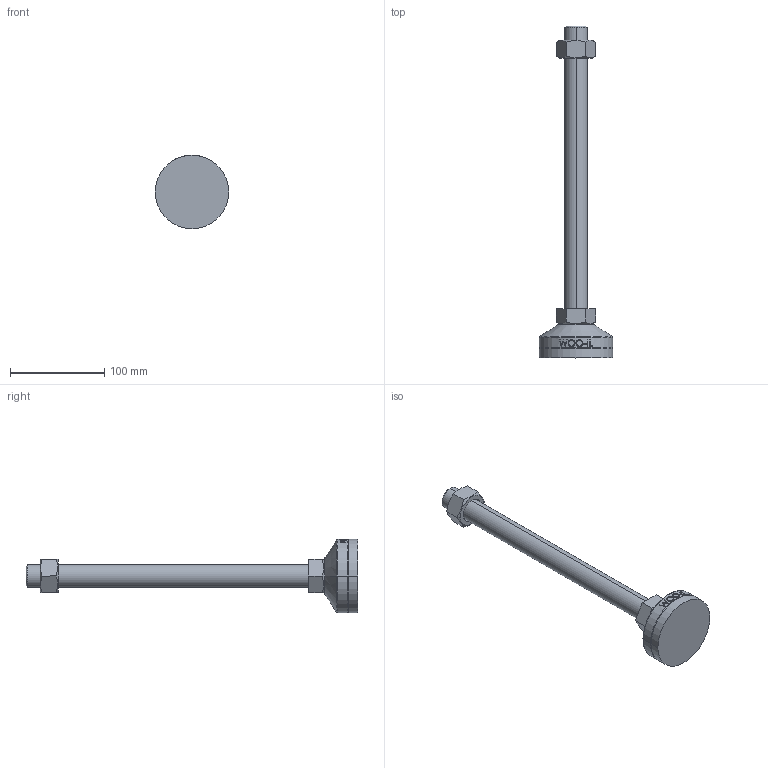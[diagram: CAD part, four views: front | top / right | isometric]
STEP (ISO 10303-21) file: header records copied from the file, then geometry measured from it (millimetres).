
FILE_DESCRIPTION (( 'STEP AP214' ), '1' );
FILE_NAME ('MFR78-M24-300.step', '2021-01-13T05:40:35', ( '' ), ( '' ), 'SwSTEP 2.0', 'SolidWorks 2019', '' );
FILE_SCHEMA (( 'AUTOMOTIVE_DESIGN' ));
Length unit declared in the file: millimetre
Products named in the file (2): MFR78-M24-300
Bounding box: 78 x 352 x 78 mm (x, y, z)
Volume: 309156.2 mm3; surface area: 56885.7 mm2
Topology: 4 solids, 4 shells, 103 faces, 235 edges, 150 vertices
Faces by surface type: plane 49, cylinder 18, bspline 16, cone 14, torus 6
Entity records: 4471 total; most frequent: CARTESIAN_POINT 2198, ORIENTED_EDGE 470, DIRECTION 417, EDGE_CURVE 235, AXIS2_PLACEMENT_3D 159, VERTEX_POINT 150, EDGE_LOOP 115, ADVANCED_FACE 103
